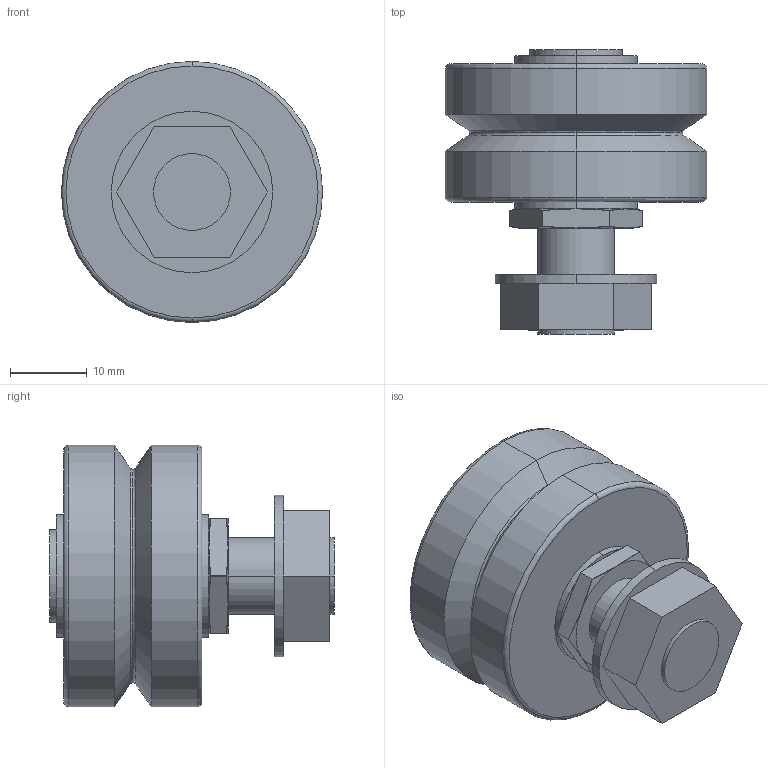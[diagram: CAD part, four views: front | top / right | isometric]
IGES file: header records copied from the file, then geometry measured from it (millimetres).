
Start section: 3D InterOp IGES (Version 21 0 1), Spatial Corp. Copyright (c) 1999-2007.
Global section: file name: RSFJ34CNS.igs; native system: Spatial Corp.; preprocessor: 3D InterOp GENERIC/IGES 3.0; author: Noname; organization: Noname; date: 20220627.163501; units: millimetre
Bounding box: 34 x 37 x 34 mm (x, y, z)
Surface area: 8877.2 mm2 (no closed solid volume)
Topology: 0 solids, 0 shells, 72 faces, 308 edges, 308 vertices
Faces by surface type: revolution 42, extrusion 30
